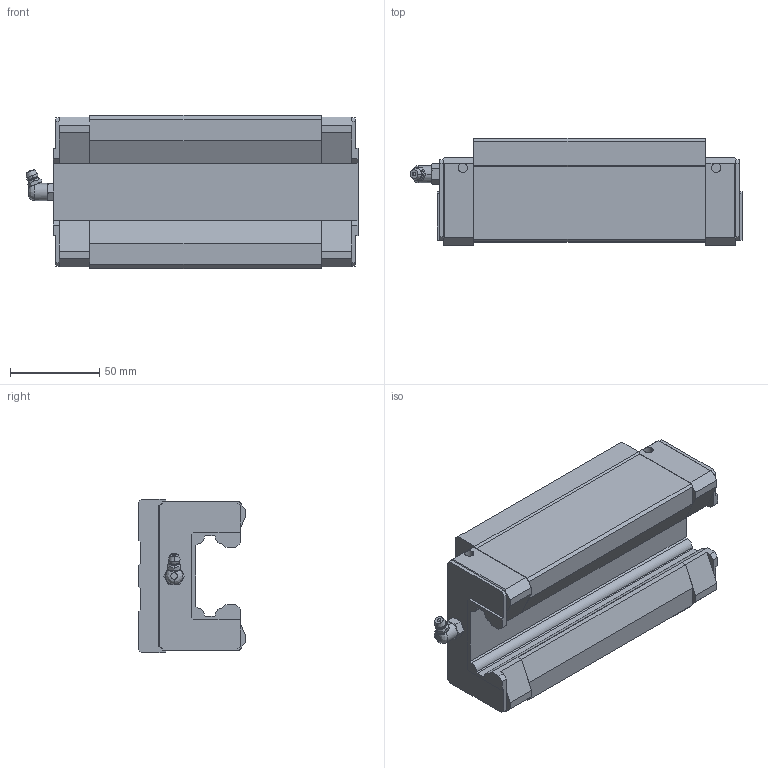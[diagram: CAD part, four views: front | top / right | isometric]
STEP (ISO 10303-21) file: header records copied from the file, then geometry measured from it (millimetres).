
FILE_DESCRIPTION (( 'STEP AP203' ), '1' );
FILE_NAME ('HSR45LR_SW2020.STEP', '2020-06-02T18:38:44', ( '' ), ( '' ), 'SwSTEP 2.0', 'SolidWorks 2020', '' );
FILE_SCHEMA (( 'CONFIG_CONTROL_DESIGN' ));
Length unit declared in the file: millimetre
Products named in the file (1): HSR45LR_SW2020
Bounding box: 186 x 60 x 86 mm (x, y, z)
Volume: 604562.2 mm3; surface area: 73600 mm2
Topology: 2 solids, 2 shells, 233 faces, 628 edges, 394 vertices
Faces by surface type: plane 159, cone 40, cylinder 22, torus 6, sphere 4, bspline 2
Entity records: 7886 total; most frequent: CARTESIAN_POINT 2047, ORIENTED_EDGE 1228, DIRECTION 1152, EDGE_CURVE 614, VECTOR 468, LINE 468, VERTEX_POINT 394, AXIS2_PLACEMENT_3D 342
